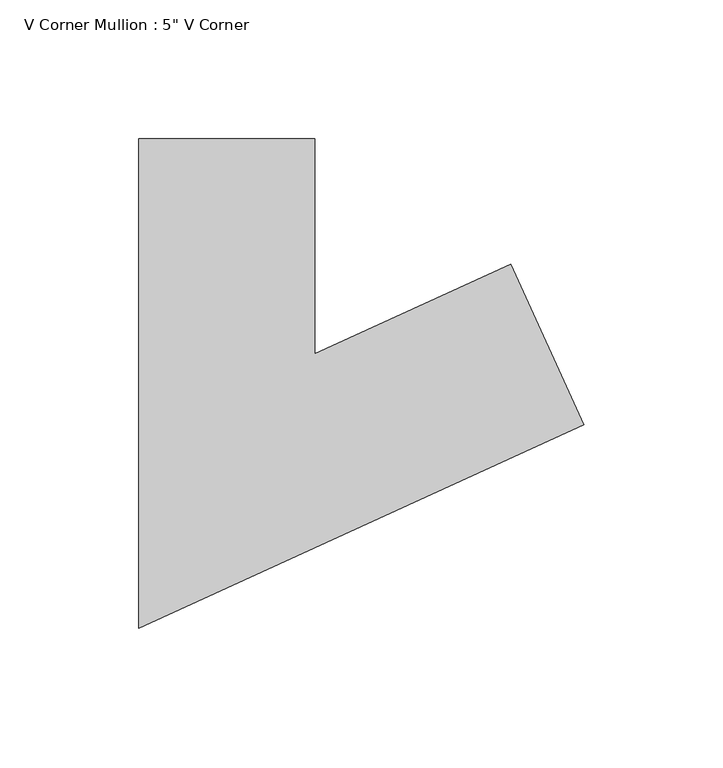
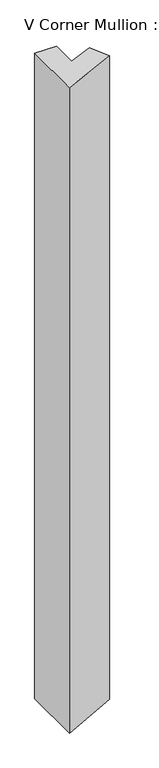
"""IFC4 building model written with IfcOpenShell, lengths in millimetres: member geometry."""

import ifcopenshell
import ifcopenshell.guid

model = None  # the IFC model being written
_history = None  # IfcOwnerHistory: only IFC2X3 demands one
_inside = {}  # id of a spatial element -> (the spatial element, [elements in it])
_under = {}  # id of a project, library or spatial element -> (it, [spatial elements below it])
_declared = {}  # id of a project -> (the project, [libraries it declares])
_typed = {}  # id of a type object -> (the type object, [elements of that type])
_made_of = {}  # id of a material, layer set ... -> (it, [elements and type objects made of it])


def new_model(schema):
    """Start an empty IFC model of exactly this schema.

    Asked for "IFC4X3", IfcOpenShell would pick the latest addendum, in which some entities
    have other attributes; the version numbers below select the first issue.
    IFC2X3 requires an IfcOwnerHistory on every rooted entity: one is made here for all.
    """
    global model, _history
    if schema == "IFC4X3":
        model = ifcopenshell.file(schema_version=(4, 3, 0, 0))
    else:
        model = ifcopenshell.file(schema=schema)
    _inside.clear()
    _under.clear()
    _declared.clear()
    _typed.clear()
    _made_of.clear()
    _history = None
    if model.schema == "IFC2X3":
        org = make("IfcOrganization", Name="unknown")
        user = make(
            "IfcPersonAndOrganization",
            ThePerson=make("IfcPerson", FamilyName="unknown"),
            TheOrganization=org,
        )
        app = make(
            "IfcApplication",
            ApplicationDeveloper=org,
            Version="unknown",
            ApplicationFullName="unknown",
            ApplicationIdentifier="unknown",
        )
        _history = make(
            "IfcOwnerHistory",
            OwningUser=user,
            OwningApplication=app,
            ChangeAction="ADDED",
            CreationDate=0,
        )
    return model


def make(cls, **values):
    """One entity of the class cls with the attributes given. An attribute that is None is left unset."""
    return model.create_entity(
        cls, **{name: value for name, value in values.items() if value is not None}
    )


def rooted(cls, **values):
    """An entity with a GlobalId (a new one), such as an element, a storey or a relation."""
    return make(cls, GlobalId=ifcopenshell.guid.new(), OwnerHistory=_history, **values)


def si_unit(unit_type, name, prefix=None):
    """IfcSIUnit, for example si_unit("LENGTHUNIT", "METRE", prefix="MILLI")."""
    return make("IfcSIUnit", UnitType=unit_type, Prefix=prefix, Name=name)


def assignment(units):
    """IfcUnitAssignment: the units of a project."""
    return None if units is None else make("IfcUnitAssignment", Units=units)


def point(xyz):
    """IfcCartesianPoint."""
    return None if xyz is None else make("IfcCartesianPoint", Coordinates=xyz)


def direction(xyz):
    """IfcDirection."""
    return None if xyz is None else make("IfcDirection", DirectionRatios=xyz)


def frame(location, z_axis=None, x_axis=None):
    """IfcAxis2Placement3D, a coordinate frame: its origin and axes. An axis left out is left unset."""
    return make(
        "IfcAxis2Placement3D",
        Location=point(location),
        Axis=direction(z_axis),
        RefDirection=direction(x_axis),
    )


def origin():
    """The frame at (0, 0, 0) with its axes left unset."""
    return frame((0.0, 0.0, 0.0))


def place(relative_to, where):
    """IfcLocalPlacement: puts the frame where relative to a parent placement (None: the world)."""
    return make(
        "IfcLocalPlacement", PlacementRelTo=relative_to, RelativePlacement=where
    )


def context(
    kind, dimensions, precision=None, world=None, true_north=None, identifier=None
):
    """IfcGeometricRepresentationContext, for example the 3D "Model" context."""
    return make(
        "IfcGeometricRepresentationContext",
        ContextIdentifier=identifier,
        ContextType=kind,
        CoordinateSpaceDimension=dimensions,
        Precision=precision,
        WorldCoordinateSystem=world,
        TrueNorth=true_north,
    )


def project(units=None, contexts=None):
    """IfcProject with its units and contexts."""
    return rooted(
        "IfcProject",
        Name="project",
        RepresentationContexts=contexts,
        UnitsInContext=assignment(units),
    )


def spatial(cls, under=None, at=None, **own):
    """A site, building, storey or space (cls), placed at a placement, below another one or the project."""
    s = rooted(cls, ObjectPlacement=at, **own)
    if under is not None:
        _under.setdefault(under.id(), (under, []))[1].append(s)
    return s


def faces_of(points, faces, orient=None, outer=None):
    """IfcFace entities. A face is a list of loops; a loop is a list of indices into points, from 0.

    orient and outer hold one flag for each loop. By default every Orientation is true, the
    first loop of a face is its IfcFaceOuterBound and the others are IfcFaceBound.
    """
    made = []
    for i, loops in enumerate(faces):
        bounds = []
        for j, loop in enumerate(loops):
            is_outer = j == 0 if outer is None else outer[i][j]
            bounds.append(
                make(
                    "IfcFaceOuterBound" if is_outer else "IfcFaceBound",
                    Bound=make("IfcPolyLoop", Polygon=[points[k] for k in loop]),
                    Orientation=True if orient is None else orient[i][j],
                )
            )
        made.append(make("IfcFace", Bounds=bounds))
    return made


def faceted_brep(points, faces, orient=None, outer=None, voids=None):
    """IfcFacetedBrep: a solid bounded by flat faces; with voids (closed shells), ...WithVoids."""
    shared = [point(p) for p in points]
    hull = make("IfcClosedShell", CfsFaces=faces_of(shared, faces, orient, outer))
    if voids is None:
        return make("IfcFacetedBrep", Outer=hull)
    return make(
        "IfcFacetedBrepWithVoids",
        Outer=hull,
        Voids=[
            make(cls, CfsFaces=faces_of(shared, fs, o, b)) for cls, fs, o, b in voids
        ],
    )


def shape(context_of_items, identifier, shape_type, items):
    """IfcShapeRepresentation: the items that make up one representation, for example the "Body"."""
    return make(
        "IfcShapeRepresentation",
        ContextOfItems=context_of_items,
        RepresentationIdentifier=identifier,
        RepresentationType=shape_type,
        Items=items,
    )


def source(mapping_origin, context_of_items, identifier, shape_type, items):
    """IfcRepresentationMap: a shape defined once, which mapped items show again and again."""
    return make(
        "IfcRepresentationMap",
        MappingOrigin=mapping_origin,
        MappedRepresentation=shape(context_of_items, identifier, shape_type, items),
    )


def transform(
    local_origin,
    x_axis=None,
    y_axis=None,
    z_axis=None,
    scale=None,
    scale2=None,
    scale3=None,
    uniform=True,
):
    """IfcCartesianTransformationOperator3D, or its non-uniform kind. x_axis, y_axis, z_axis: its Axis1, 2, 3."""
    if uniform:
        return make(
            "IfcCartesianTransformationOperator3D",
            Axis1=direction(x_axis),
            Axis2=direction(y_axis),
            LocalOrigin=point(local_origin),
            Scale=scale,
            Axis3=direction(z_axis),
        )
    return make(
        "IfcCartesianTransformationOperator3DnonUniform",
        Axis1=direction(x_axis),
        Axis2=direction(y_axis),
        LocalOrigin=point(local_origin),
        Scale=scale,
        Axis3=direction(z_axis),
        Scale2=scale2,
        Scale3=scale3,
    )


def mapped(mapping_source, mapping_target):
    """IfcMappedItem: shows the shape of a source again, moved by a transform."""
    return make(
        "IfcMappedItem", MappingSource=mapping_source, MappingTarget=mapping_target
    )


def made_of(thing, what):
    """Note that an element or type object is made of a material, layer set ...; save() writes the relation."""
    if what is not None:
        _made_of.setdefault(what.id(), (what, []))[1].append(thing)
    return thing


def element(
    cls,
    number,
    at=None,
    inside=None,
    cuts=None,
    type_object=None,
    material=None,
    context=None,
    identifier="Body",
    shape_type=None,
    held_by="IfcProductDefinitionShape",
    body=None,
    shapes=None,
    **own,
):
    """One element of the class cls, such as IfcWall. Its Tag is "e" and its number.

    at: its placement. inside: the storey or other place that contains it. cuts: it is an
    opening in that element (IfcRelVoidsElement). A single representation is given by context,
    identifier, shape_type and body (its items); several are given by shapes. held_by: the class
    of the entity that holds the representations. save() writes the other relations.
    """
    e = rooted(cls, Tag="e%d" % number, ObjectPlacement=at, **own)
    if body is not None:
        shapes = [shape(context, identifier, shape_type, body)]
    if shapes is not None:
        e.Representation = make(held_by, Representations=shapes)
    if inside is not None:
        _inside.setdefault(inside.id(), (inside, []))[1].append(e)
    if cuts is not None:
        rooted(
            "IfcRelVoidsElement", RelatingBuildingElement=cuts, RelatedOpeningElement=e
        )
    if type_object is not None:
        _typed.setdefault(type_object.id(), (type_object, []))[1].append(e)
    return made_of(e, material)


def aggregate(whole, parts):
    """IfcRelAggregates: a whole, such as a stair, and the parts it consists of."""
    return rooted("IfcRelAggregates", RelatingObject=whole, RelatedObjects=parts)


def save(model, path):
    """Write the relations noted so far, then the file.

    IfcRelAggregates (storeys below a building ...), IfcRelContainedInSpatialStructure (elements
    in a storey), IfcRelDefinesByType, IfcRelAssociatesMaterial and IfcRelDeclares: one each for
    every whole, place, type object, material and project.
    """
    for whole, parts in _under.values():
        aggregate(whole, parts)
    for where, things in _inside.values():
        rooted(
            "IfcRelContainedInSpatialStructure",
            RelatedElements=things,
            RelatingStructure=where,
        )
    for kind, things in _typed.values():
        rooted("IfcRelDefinesByType", RelatedObjects=things, RelatingType=kind)
    for what, things in _made_of.values():
        rooted("IfcRelAssociatesMaterial", RelatedObjects=things, RelatingMaterial=what)
    for by, libraries in _declared.values():
        rooted("IfcRelDeclares", RelatingContext=by, RelatedDefinitions=libraries)
    model.write(path)


def member_25078dfa(model_context):
    return source(origin(), model_context, "Body", "Brep", [
        faceted_brep([(61.49523, 18.2208415, -1.1174033), (87.9205542, -39.5195451, -1.5975665), (87.9205542, -39.5195451, -1995.6753744), (61.49523, 18.2208415, -1996.4643576), (-9.0228811, -14.0523047, 0.1639509), (-9.0228811, -14.0523047, -1998.5698228), (-9.0228811, 63.5, 0.1639509), (-9.0228811, 63.5, -1998.5698228), (-72.5228811, 63.5, 1.317782), (-72.5228811, 63.5, -2000.4657478), (-72.5228811, -112.9476953, 1.317782), (-72.5228811, -112.9476953, -2000.4657478)], [[[0, 1, 2, 3]], [[4, 0, 3, 5]], [[6, 4, 5, 7]], [[8, 6, 7, 9]], [[10, 8, 9, 11]], [[1, 10, 11, 2]], [[1, 0, 4, 6, 8, 10]], [[2, 11, 9, 7, 5, 3]]]),
    ])


if __name__ == "__main__":
    model = new_model("IFC4")
    model_context = context("Model", 3, world=origin())
    ifc_project = project(units=[si_unit("LENGTHUNIT", "METRE", prefix="MILLI")], contexts=[model_context])
    site = spatial("IfcSite", under=ifc_project)
    building = spatial("IfcBuilding", under=site)
    placement = place(None, origin())
    member_shape = member_25078dfa(model_context)
    element("IfcMember", 1, ObjectType="V Corner Mullion : 5\" V Corner", at=placement, inside=building, context=model_context, shape_type="MappedRepresentation", body=[
        mapped(member_shape, transform((0.0, 0.0, 0.0), x_axis=(1.0, 0.0, 0.0), y_axis=(0.0, 1.0, 0.0), z_axis=(0.0, 0.0, 1.0))),
    ])
    save(model, "model.ifc")
